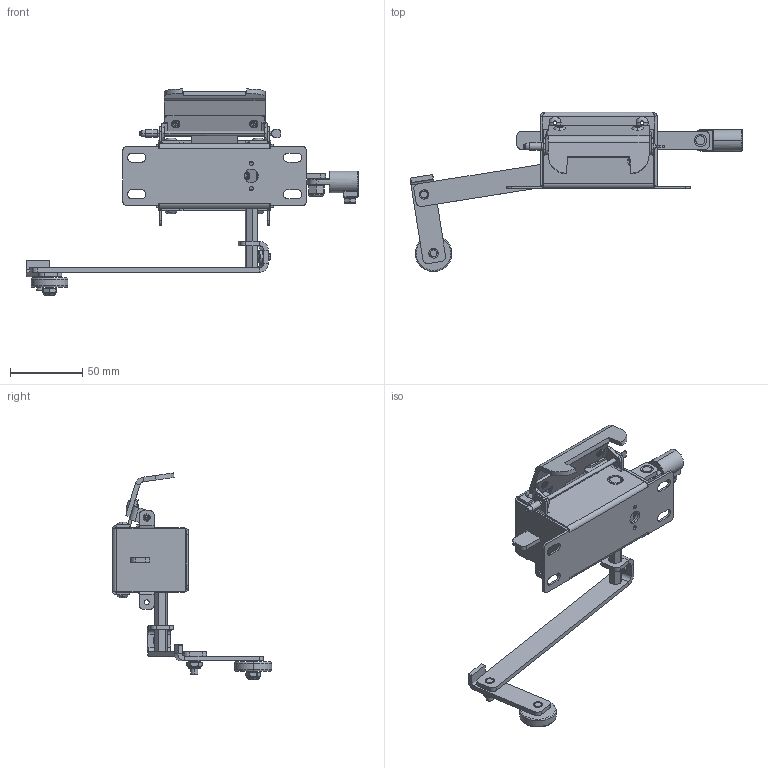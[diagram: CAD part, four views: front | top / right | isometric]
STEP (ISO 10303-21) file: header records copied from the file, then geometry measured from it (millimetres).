
FILE_DESCRIPTION((''),'2;1');
FILE_NAME('105604_ASM','2011-06-01T',('DougP'),(''),'PRO/ENGINEER BY PARAMETRIC TECHNOLOGY CORPORATION, 2009230','PRO/ENGINEER BY PARAMETRIC TECHNOLOGY CORPORATION, 2009230','');
FILE_SCHEMA(('AUTOMOTIVE_DESIGN { 1 0 10303 214 1 1 1 1 }'));
Length unit declared in the file: inch
Products named in the file (36): 103732-BODY; 103732-BRKT; 103732_ASM; 103733-COVER; 103779-CONTROL-ROD; 103737; 102361; 104433-6IN-ARM; 100022; 100058; 104433_ASM; 104437-ADAPTER; 104437_ASM; 102482; 102634; 100898; 105570; 104431-BRKT; 104431_ASM; 104434-BRKT; 104981; 104434_ASM; 104430-CATCH; 110843; 100987; 102494; 104432-BAR; 100064; 104432_ASM; 102643-ADAPTER; 102643-SCREW; 102643_ASM; 100879; 102325; 102324; 105604_ASM
Assembly tree (43 placements, depth 3):
  105604_ASM
    103732_ASM
      103732-BODY
      103732-BRKT
    103733-COVER
    103779-CONTROL-ROD
    103737
    102361
    104433_ASM
      104433-6IN-ARM
      100022
      100058
    104437_ASM
      104437-ADAPTER
      100058
    102482  x2
    102634
    100898  x2
    105570  x4
    104431_ASM
      104431-BRKT
      100022
    104434_ASM
      104434-BRKT
      104981
    104430-CATCH
    110843  x2
    100987
    102494
    104432_ASM
      104432-BAR
      100064
    102643_ASM
      102643-ADAPTER
      102643-SCREW
    100879
    102325
    102324
Bounding box: 229.86 x 110.26 x 142.68 mm (x, y, z)
Volume: 83167.7 mm3; surface area: 89607.5 mm2
Topology: 38 solids, 38 shells, 1239 faces, 3027 edges, 1866 vertices
Faces by surface type: plane 505, cylinder 407, bspline 106, torus 99, extrusion 68, cone 46, sphere 8
Entity records: 39175 total; most frequent: CARTESIAN_POINT 11898, ORIENTED_EDGE 5174, DIRECTION 5115, EDGE_CURVE 2587, AXIS2_PLACEMENT_3D 1863, VERTEX_POINT 1620, VECTOR 1389, LINE 1321
